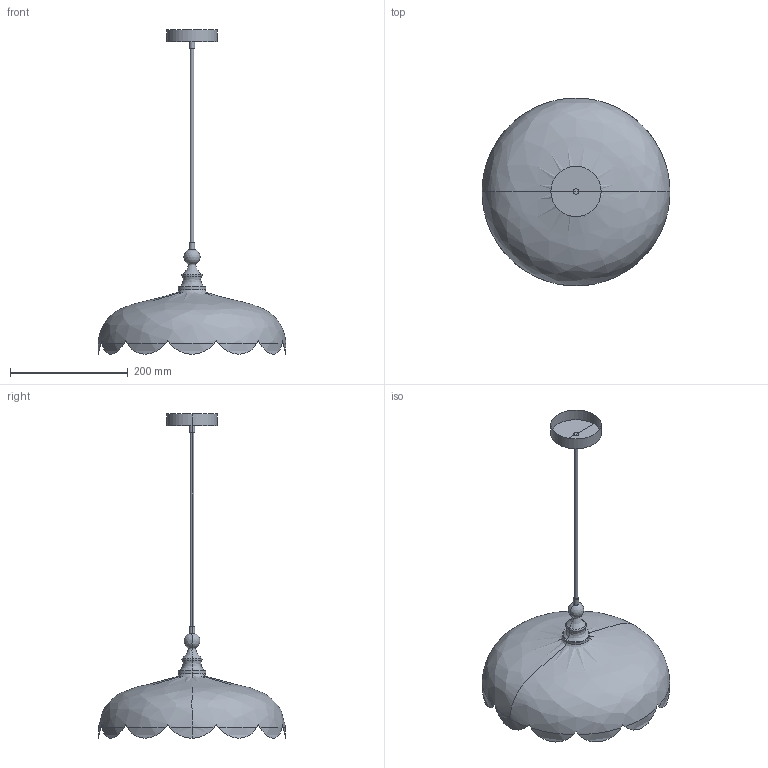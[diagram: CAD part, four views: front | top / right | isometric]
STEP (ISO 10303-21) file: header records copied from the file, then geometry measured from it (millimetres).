
FILE_DESCRIPTION(/* description */ (''),/* implementation_level */ '2;1');
FILE_NAME(/* name */ 'Bellerin Pendant Lamp',/* time_stamp */ '2026-05-16T17:41:27+08:00',/* author */ (''),/* organization */ (''),/* preprocessor_version */ 'ST-DEVELOPER v19.2',/* originating_system */ 'Rhino 8.25',/* authorisation */ '');
FILE_SCHEMA (('CONFIG_CONTROL_DESIGN'));
Length unit declared in the file: millimetre
Products named in the file (1): Document
Bounding box: 318.94 x 318.94 x 551.31 mm (x, y, z)
Volume: 169188.3 mm3; surface area: 175970.1 mm2
Topology: 6 solids, 8 shells, 79 faces, 189 edges, 117 vertices
Faces by surface type: bspline 30, cylinder 27, plane 22
Entity records: 3283 total; most frequent: CARTESIAN_POINT 1720, ORIENTED_EDGE 314, DIRECTION 207, EDGE_CURVE 183, AXIS2_PLACEMENT_3D 128, VERTEX_POINT 117, ADVANCED_FACE 79, FACE_OUTER_BOUND 79
